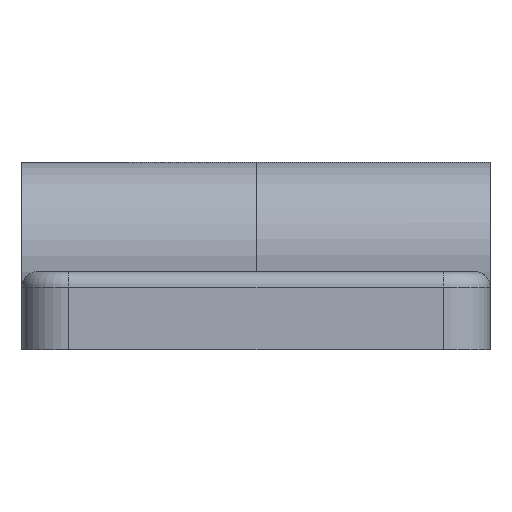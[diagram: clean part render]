
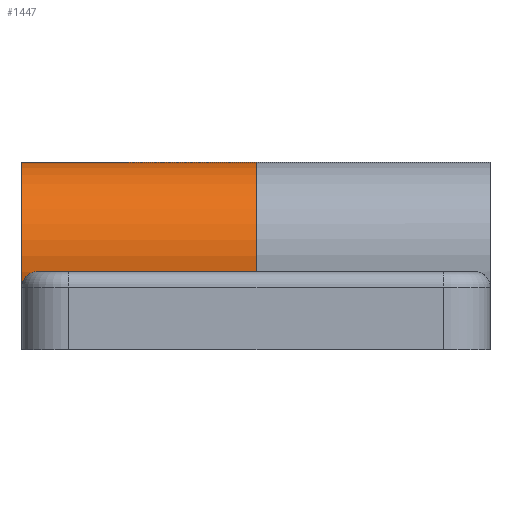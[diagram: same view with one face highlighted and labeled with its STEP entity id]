
A CAD part, left-side view. The second image highlights one B-rep face of the part: STEP entity #1447.
In plain terms, the highlighted cylindrical face has radius 6 mm (diameter 12 mm), a partial arc.
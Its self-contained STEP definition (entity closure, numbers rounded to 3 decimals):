
#263 = PLANE('',#264);
#264 = AXIS2_PLACEMENT_3D('',#265,#266,#267);
#265 = CARTESIAN_POINT('',(35.577,-20.66,-2.5));
#266 = DIRECTION('',(0.,0.,1.));
#267 = DIRECTION('',(-1.,0.,0.));
#344 = PLANE('',#345);
#345 = AXIS2_PLACEMENT_3D('',#346,#347,#348);
#346 = CARTESIAN_POINT('',(11.577,-35.66,3.5));
#347 = DIRECTION('',(0.,-1.,0.));
#348 = DIRECTION('',(-1.,0.,0.));
#503 = EDGE_CURVE('',#504,#506,#508,.T.);
#504 = VERTEX_POINT('',#505);
#505 = CARTESIAN_POINT('',(11.577,-35.66,9.5));
#506 = VERTEX_POINT('',#507);
#507 = CARTESIAN_POINT('',(11.577,-20.66,9.5));
#508 = SURFACE_CURVE('',#509,(#513,#525),.PCURVE_S1.);
#509 = LINE('',#510,#511);
#510 = CARTESIAN_POINT('',(11.577,-35.66,9.5));
#511 = VECTOR('',#512,1.);
#512 = DIRECTION('',(0.,1.,0.));
#513 = PCURVE('',#514,#519);
#514 = CYLINDRICAL_SURFACE('',#515,6.);
#515 = AXIS2_PLACEMENT_3D('',#516,#517,#518);
#516 = CARTESIAN_POINT('',(11.577,-35.66,3.5));
#517 = DIRECTION('',(0.,-1.,0.));
#518 = DIRECTION('',(0.,0.,-1.));
#519 = DEFINITIONAL_REPRESENTATION('',(#520),#524);
#520 = LINE('',#521,#522);
#521 = CARTESIAN_POINT('',(3.142,0.));
#522 = VECTOR('',#523,1.);
#523 = DIRECTION('',(0.,-1.));
#524 = ( GEOMETRIC_REPRESENTATION_CONTEXT(2) 
PARAMETRIC_REPRESENTATION_CONTEXT() REPRESENTATION_CONTEXT('2D SPACE',''
  ) );
#525 = PCURVE('',#526,#531);
#526 = CYLINDRICAL_SURFACE('',#527,6.);
#527 = AXIS2_PLACEMENT_3D('',#528,#529,#530);
#528 = CARTESIAN_POINT('',(11.577,-35.66,3.5));
#529 = DIRECTION('',(0.,-1.,0.));
#530 = DIRECTION('',(0.,0.,-1.));
#531 = DEFINITIONAL_REPRESENTATION('',(#532),#536);
#532 = LINE('',#533,#534);
#533 = CARTESIAN_POINT('',(3.142,0.));
#534 = VECTOR('',#535,1.);
#535 = DIRECTION('',(0.,-1.));
#536 = ( GEOMETRIC_REPRESENTATION_CONTEXT(2) 
PARAMETRIC_REPRESENTATION_CONTEXT() REPRESENTATION_CONTEXT('2D SPACE',''
  ) );
#679 = PLANE('',#680);
#680 = AXIS2_PLACEMENT_3D('',#681,#682,#683);
#681 = CARTESIAN_POINT('',(35.577,-20.66,-2.5));
#682 = DIRECTION('',(0.,1.,0.));
#683 = DIRECTION('',(0.,0.,-1.));
#966 = VERTEX_POINT('',#967);
#967 = CARTESIAN_POINT('',(11.577,-20.66,-2.5));
#1126 = VERTEX_POINT('',#1127);
#1127 = CARTESIAN_POINT('',(11.577,-35.66,-2.5));
#1148 = EDGE_CURVE('',#966,#1126,#1149,.T.);
#1149 = SURFACE_CURVE('',#1150,(#1154,#1161),.PCURVE_S1.);
#1150 = LINE('',#1151,#1152);
#1151 = CARTESIAN_POINT('',(11.577,-20.66,-2.5));
#1152 = VECTOR('',#1153,1.);
#1153 = DIRECTION('',(0.,-1.,0.));
#1154 = PCURVE('',#263,#1155);
#1155 = DEFINITIONAL_REPRESENTATION('',(#1156),#1160);
#1156 = LINE('',#1157,#1158);
#1157 = CARTESIAN_POINT('',(24.,0.));
#1158 = VECTOR('',#1159,1.);
#1159 = DIRECTION('',(0.,1.));
#1160 = ( GEOMETRIC_REPRESENTATION_CONTEXT(2) 
PARAMETRIC_REPRESENTATION_CONTEXT() REPRESENTATION_CONTEXT('2D SPACE',''
  ) );
#1161 = PCURVE('',#526,#1162);
#1162 = DEFINITIONAL_REPRESENTATION('',(#1163),#1167);
#1163 = LINE('',#1164,#1165);
#1164 = CARTESIAN_POINT('',(6.283,-15.));
#1165 = VECTOR('',#1166,1.);
#1166 = DIRECTION('',(0.,1.));
#1167 = ( GEOMETRIC_REPRESENTATION_CONTEXT(2) 
PARAMETRIC_REPRESENTATION_CONTEXT() REPRESENTATION_CONTEXT('2D SPACE',''
  ) );
#1447 = ADVANCED_FACE('',(#1448),#526,.T.);
#1448 = FACE_BOUND('',#1449,.T.);
#1449 = EDGE_LOOP('',(#1450,#1451,#1477,#1478));
#1450 = ORIENTED_EDGE('',*,*,#503,.T.);
#1451 = ORIENTED_EDGE('',*,*,#1452,.T.);
#1452 = EDGE_CURVE('',#506,#966,#1453,.T.);
#1453 = SURFACE_CURVE('',#1454,(#1459,#1466),.PCURVE_S1.);
#1454 = CIRCLE('',#1455,6.);
#1455 = AXIS2_PLACEMENT_3D('',#1456,#1457,#1458);
#1456 = CARTESIAN_POINT('',(11.577,-20.66,3.5));
#1457 = DIRECTION('',(0.,-1.,0.));
#1458 = DIRECTION('',(-1.,0.,0.));
#1459 = PCURVE('',#526,#1460);
#1460 = DEFINITIONAL_REPRESENTATION('',(#1461),#1465);
#1461 = LINE('',#1462,#1463);
#1462 = CARTESIAN_POINT('',(-1.571,-15.));
#1463 = VECTOR('',#1464,1.);
#1464 = DIRECTION('',(1.,0.));
#1465 = ( GEOMETRIC_REPRESENTATION_CONTEXT(2) 
PARAMETRIC_REPRESENTATION_CONTEXT() REPRESENTATION_CONTEXT('2D SPACE',''
  ) );
#1466 = PCURVE('',#679,#1467);
#1467 = DEFINITIONAL_REPRESENTATION('',(#1468),#1476);
#1468 = ( BOUNDED_CURVE() B_SPLINE_CURVE(2,(#1469,#1470,#1471,#1472,
#1473,#1474,#1475),.UNSPECIFIED.,.T.,.F.) B_SPLINE_CURVE_WITH_KNOTS((1,2
    ,2,2,2,1),(-2.094,0.,2.094,4.189,
6.283,8.378),.UNSPECIFIED.) CURVE() 
GEOMETRIC_REPRESENTATION_ITEM() RATIONAL_B_SPLINE_CURVE((1.,0.5,1.,0.5,
1.,0.5,1.)) REPRESENTATION_ITEM('') );
#1469 = CARTESIAN_POINT('',(-6.,30.));
#1470 = CARTESIAN_POINT('',(4.392,30.));
#1471 = CARTESIAN_POINT('',(-0.804,21.));
#1472 = CARTESIAN_POINT('',(-6.,12.));
#1473 = CARTESIAN_POINT('',(-11.196,21.));
#1474 = CARTESIAN_POINT('',(-16.392,30.));
#1475 = CARTESIAN_POINT('',(-6.,30.));
#1476 = ( GEOMETRIC_REPRESENTATION_CONTEXT(2) 
PARAMETRIC_REPRESENTATION_CONTEXT() REPRESENTATION_CONTEXT('2D SPACE',''
  ) );
#1477 = ORIENTED_EDGE('',*,*,#1148,.T.);
#1478 = ORIENTED_EDGE('',*,*,#1479,.F.);
#1479 = EDGE_CURVE('',#504,#1126,#1480,.T.);
#1480 = SURFACE_CURVE('',#1481,(#1486,#1493),.PCURVE_S1.);
#1481 = CIRCLE('',#1482,6.);
#1482 = AXIS2_PLACEMENT_3D('',#1483,#1484,#1485);
#1483 = CARTESIAN_POINT('',(11.577,-35.66,3.5));
#1484 = DIRECTION('',(0.,-1.,0.));
#1485 = DIRECTION('',(-1.,0.,0.));
#1486 = PCURVE('',#526,#1487);
#1487 = DEFINITIONAL_REPRESENTATION('',(#1488),#1492);
#1488 = LINE('',#1489,#1490);
#1489 = CARTESIAN_POINT('',(-1.571,0.));
#1490 = VECTOR('',#1491,1.);
#1491 = DIRECTION('',(1.,0.));
#1492 = ( GEOMETRIC_REPRESENTATION_CONTEXT(2) 
PARAMETRIC_REPRESENTATION_CONTEXT() REPRESENTATION_CONTEXT('2D SPACE',''
  ) );
#1493 = PCURVE('',#344,#1494);
#1494 = DEFINITIONAL_REPRESENTATION('',(#1495),#1499);
#1495 = CIRCLE('',#1496,6.);
#1496 = AXIS2_PLACEMENT_2D('',#1497,#1498);
#1497 = CARTESIAN_POINT('',(0.,0.));
#1498 = DIRECTION('',(1.,0.));
#1499 = ( GEOMETRIC_REPRESENTATION_CONTEXT(2) 
PARAMETRIC_REPRESENTATION_CONTEXT() REPRESENTATION_CONTEXT('2D SPACE',''
  ) );
